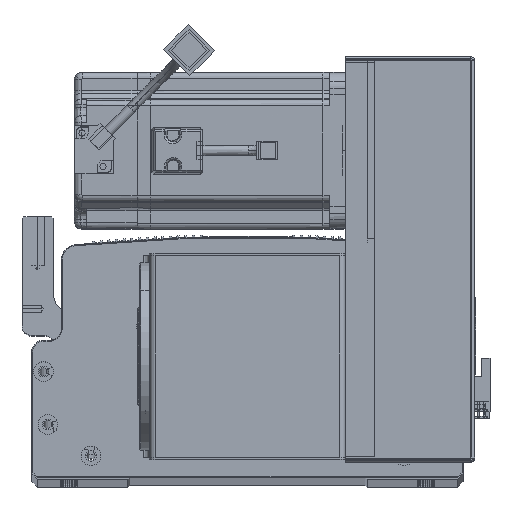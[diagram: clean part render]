
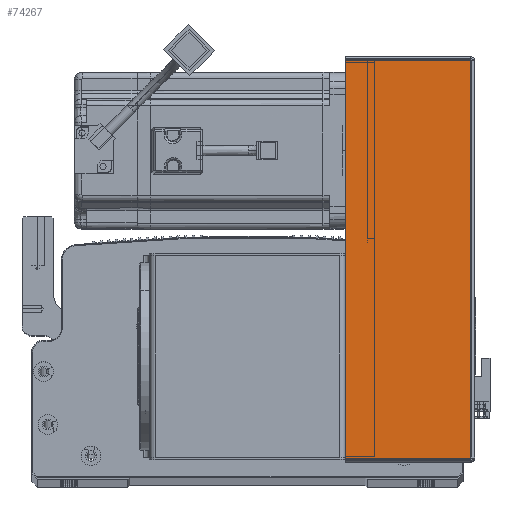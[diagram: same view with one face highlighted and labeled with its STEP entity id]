
A CAD part, top view. The second image highlights one B-rep face of the part: STEP entity #74267.
In plain terms, the highlighted planar face has unit normal (0, 0, 1) as drawn and (0, -1, 0) by its records, which use the part's own axes.
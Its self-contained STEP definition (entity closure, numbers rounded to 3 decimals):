
#737 = CARTESIAN_POINT ( 'NONE',  ( 64.5, -1.5, -0.707 ) ) ;
#2831 = ORIENTED_EDGE ( 'NONE', *, *, #28933, .T. ) ;
#3985 = CARTESIAN_POINT ( 'NONE',  ( 0.737, -1.5, -0.707 ) ) ;
#6179 = ORIENTED_EDGE ( 'NONE', *, *, #20840, .F. ) ;
#10774 = EDGE_CURVE ( 'NONE', #65886, #15321, #67508, .T. ) ;
#15160 = CARTESIAN_POINT ( 'NONE',  ( 0., -1.5, -203.293 ) ) ;
#15321 = VERTEX_POINT ( 'NONE', #65568 ) ;
#15906 = DIRECTION ( 'NONE',  ( 0., 1., 0. ) ) ;
#15981 = VERTEX_POINT ( 'NONE', #737 ) ;
#19618 = VECTOR ( 'NONE', #53128, 1000. ) ;
#20840 = EDGE_CURVE ( 'NONE', #65886, #80613, #58180, .T. ) ;
#21892 = EDGE_LOOP ( 'NONE', ( #6179, #43096, #2831, #93370 ) ) ;
#23832 = CARTESIAN_POINT ( 'NONE',  ( 0., -1.5, 0. ) ) ;
#26155 = AXIS2_PLACEMENT_3D ( 'NONE', #23832, #15906, #45120 ) ;
#28933 = EDGE_CURVE ( 'NONE', #15321, #15981, #65404, .T. ) ;
#29446 = DIRECTION ( 'NONE',  ( 1., 0., 0. ) ) ;
#29907 = PLANE ( 'NONE',  #26155 ) ;
#31021 = CARTESIAN_POINT ( 'NONE',  ( 0.737, -1.5, 0. ) ) ;
#35934 = VECTOR ( 'NONE', #57231, 1000. ) ;
#38049 = VECTOR ( 'NONE', #29446, 1000. ) ;
#39609 = FACE_OUTER_BOUND ( 'NONE', #21892, .T. ) ;
#43096 = ORIENTED_EDGE ( 'NONE', *, *, #10774, .T. ) ;
#45120 = DIRECTION ( 'NONE',  ( -1., 0., 0. ) ) ;
#50004 = CARTESIAN_POINT ( 'NONE',  ( 64.5, -1.5, 0. ) ) ;
#51974 = EDGE_CURVE ( 'NONE', #80613, #15981, #87925, .T. ) ;
#53128 = DIRECTION ( 'NONE',  ( 0., 0., 1. ) ) ;
#57231 = DIRECTION ( 'NONE',  ( 0., 0., 1. ) ) ;
#58180 = LINE ( 'NONE', #31021, #19618 ) ;
#59099 = CARTESIAN_POINT ( 'NONE',  ( 0., -1.5, -0.707 ) ) ;
#65404 = LINE ( 'NONE', #50004, #35934 ) ;
#65568 = CARTESIAN_POINT ( 'NONE',  ( 64.5, -1.5, -203.293 ) ) ;
#65886 = VERTEX_POINT ( 'NONE', #74084 ) ;
#67377 = DIRECTION ( 'NONE',  ( 1., 0., 0. ) ) ;
#67508 = LINE ( 'NONE', #15160, #38049 ) ;
#74084 = CARTESIAN_POINT ( 'NONE',  ( 0.737, -1.5, -203.293 ) ) ;
#74267 = ADVANCED_FACE ( 'NONE', ( #39609 ), #29907, .F. ) ;
#80613 = VERTEX_POINT ( 'NONE', #3985 ) ;
#86831 = VECTOR ( 'NONE', #67377, 1000. ) ;
#87925 = LINE ( 'NONE', #59099, #86831 ) ;
#93370 = ORIENTED_EDGE ( 'NONE', *, *, #51974, .F. ) ;
